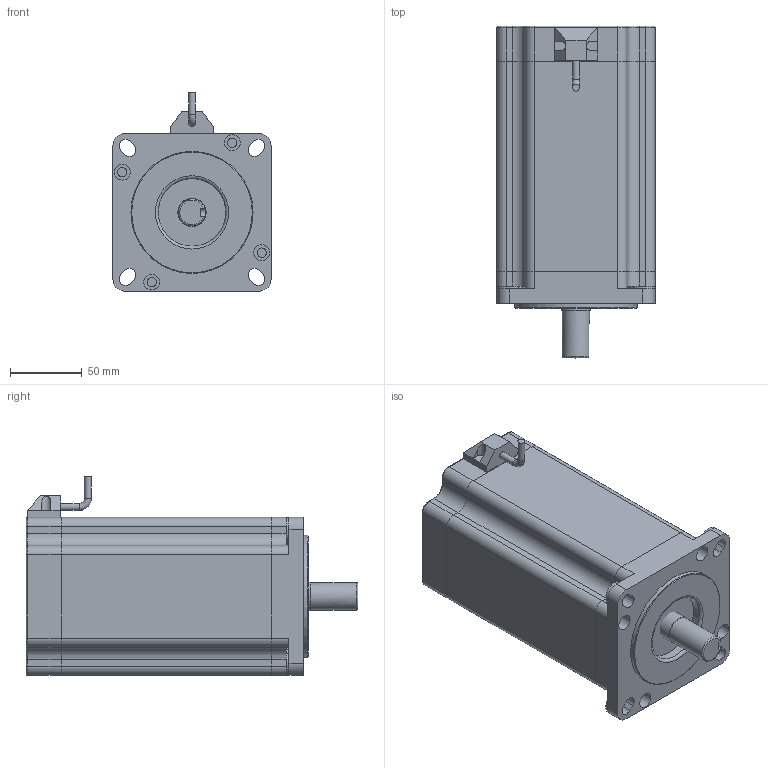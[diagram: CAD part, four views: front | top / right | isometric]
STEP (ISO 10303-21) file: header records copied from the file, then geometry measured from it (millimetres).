
FILE_DESCRIPTION(/* description */ (''),/* implementation_level */ '2;1');
FILE_NAME(/* name */ '110BYG250D.stp',/* time_stamp */ '2024-08-15T16:26:26+08:00',/* author */ (''),/* organization */ (''),/* preprocessor_version */ 'ST-DEVELOPER v18.1',/* originating_system */ 'SIEMENS PLM Software NX 2000',/* authorisation */ '');
FILE_SCHEMA (('AUTOMOTIVE_DESIGN { 1 0 10303 214 3 1 1 1 }'));
Length unit declared in the file: millimetre
Products named in the file (1): 110BYG250B电机外形图
Bounding box: 110 x 231 x 138.44 mm (x, y, z)
Volume: 2050830.6 mm3; surface area: 169245.8 mm2
Topology: 6 solids, 6 shells, 226 faces, 577 edges, 371 vertices
Faces by surface type: plane 104, cylinder 98, torus 15, cone 9
Full cylindrical faces by diameter (mm): 4.8 x2, 6.5 x12, 11 x4, 19 x1, 19.7 x1, 20 x1, 47 x1, 85 x1
Entity records: 6806 total; most frequent: DIRECTION 1210, CARTESIAN_POINT 1195, ORIENTED_EDGE 1082, EDGE_CURVE 541, AXIS2_PLACEMENT_3D 445, VERTEX_POINT 361, LINE 320, VECTOR 320
